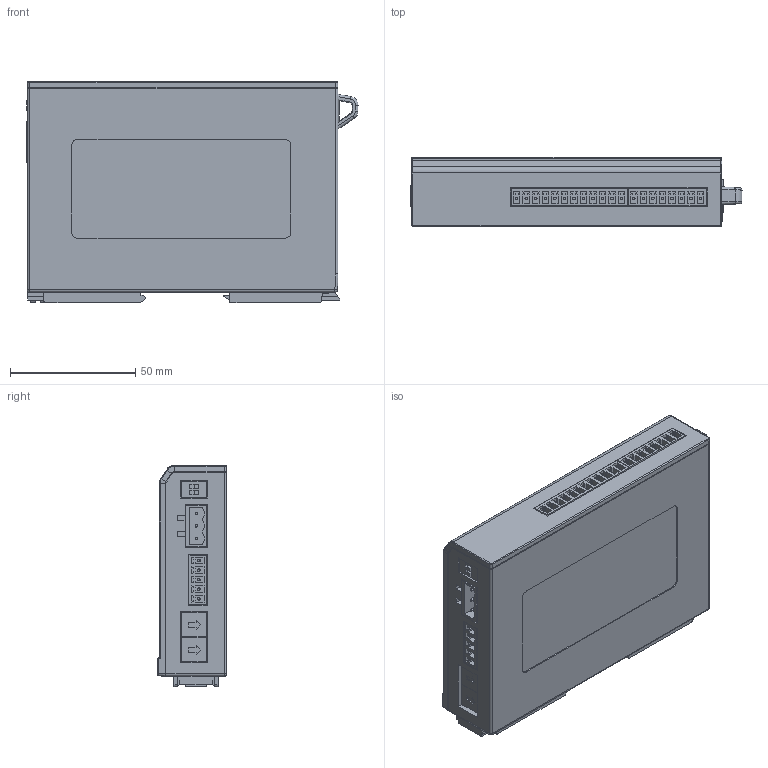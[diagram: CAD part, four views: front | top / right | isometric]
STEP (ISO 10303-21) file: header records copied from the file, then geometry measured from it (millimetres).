
FILE_DESCRIPTION((''),'2;1');
FILE_NAME('3D_IOLOGIK_R1200','2014-04-10T',('David_Sung'),(''),'PRO/ENGINEER BY PARAMETRIC TECHNOLOGY CORPORATION, 2006020','PRO/ENGINEER BY PARAMETRIC TECHNOLOGY CORPORATION, 2006020','');
FILE_SCHEMA(('CONFIG_CONTROL_DESIGN'));
Length unit declared in the file: millimetre
Products named in the file (1): 3D_IOLOGIK_R1200
Bounding box: 132.47 x 27.8 x 88.4 mm (x, y, z)
Volume: 106788.2 mm3; surface area: 116454.9 mm2
Topology: 9 solids, 17 shells, 1816 faces, 4838 edges, 3140 vertices
Faces by surface type: plane 1257, cylinder 412, torus 64, cone 33, sphere 30, bspline 20
Entity records: 57195 total; most frequent: CARTESIAN_POINT 11717, ORIENTED_EDGE 9566, DIRECTION 9072, EDGE_CURVE 4807, VECTOR 3702, LINE 3702, VERTEX_POINT 3140, AXIS2_PLACEMENT_3D 2685
